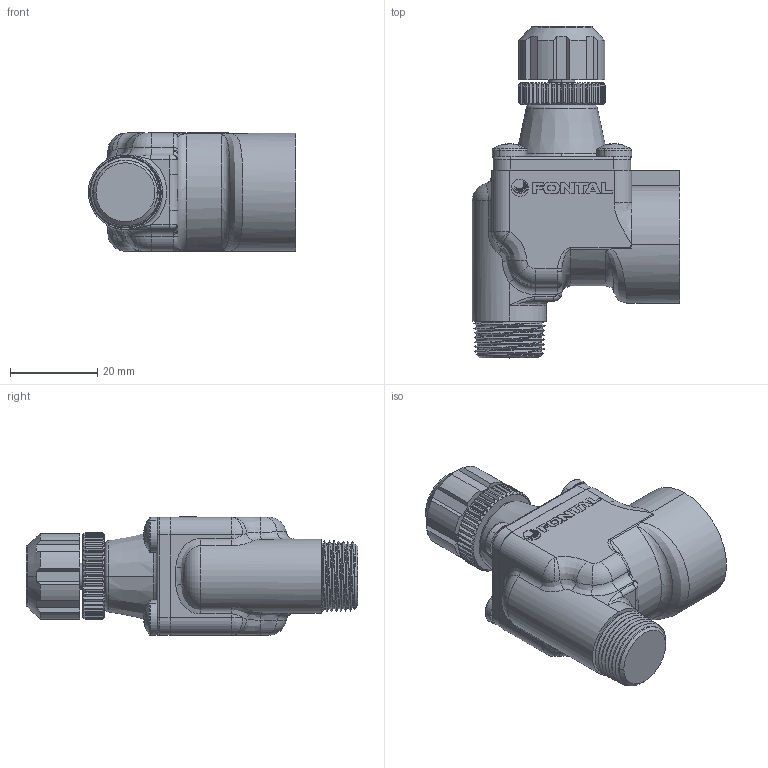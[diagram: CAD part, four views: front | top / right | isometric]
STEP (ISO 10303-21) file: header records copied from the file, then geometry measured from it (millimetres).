
FILE_DESCRIPTION (( 'STEP AP203' ), '1' );
FILE_NAME ('SPE-10-3.STEP', '2016-01-14T20:17:48', ( '' ), ( '' ), 'SwSTEP 2.0', 'SolidWorks 2014', '' );
FILE_SCHEMA (( 'CONFIG_CONTROL_DESIGN' ));
Length unit declared in the file: millimetre
Products named in the file (8): SPE-10-3; SPE-10-1; SPE-10-2; SP-06-6; ZH-10-MARK; ISO 7045 - M4 x 10 - Z; SPE-10-4
Assembly tree (10 placements, depth 2):
  SPE-10-3
    SPE-10-1
    SPE-10-2
    SPE-10-3
    SPE-10-4
    SP-06-6
    ISO 7045 - M4 x 10 - Z  x4
    ZH-10-MARK
Bounding box: 47.5 x 76 x 27.11 mm (x, y, z)
Volume: 40621.5 mm3; surface area: 13807.7 mm2
Topology: 16 solids, 16 shells, 672 faces, 1606 edges, 958 vertices
Faces by surface type: plane 293, cone 148, cylinder 138, bspline 43, torus 40, sphere 10
Entity records: 21372 total; most frequent: CARTESIAN_POINT 7875, ORIENTED_EDGE 2688, DIRECTION 2549, EDGE_CURVE 1344, AXIS2_PLACEMENT_3D 1009, VERTEX_POINT 805, EDGE_LOOP 591, ADVANCED_FACE 570
